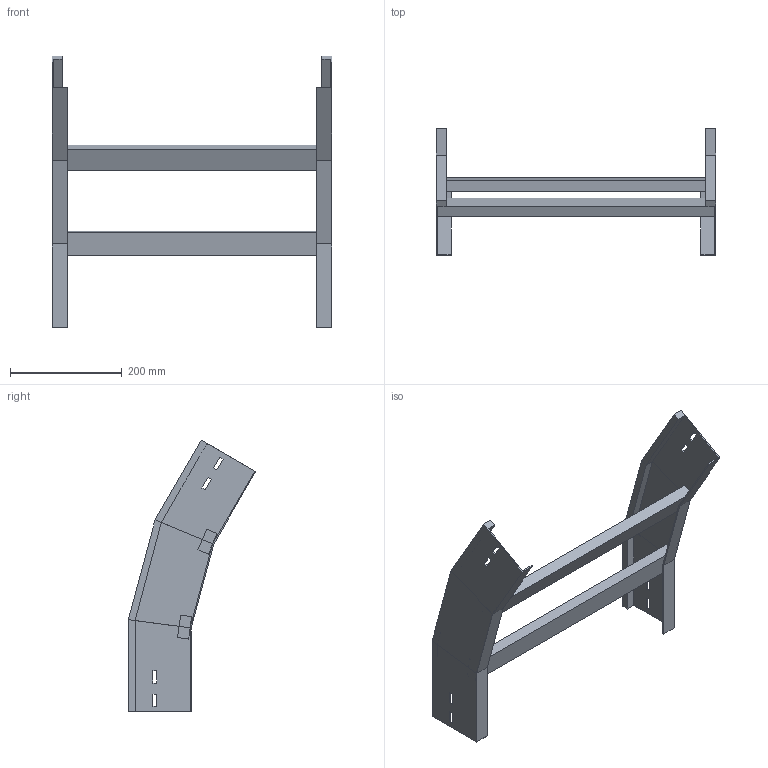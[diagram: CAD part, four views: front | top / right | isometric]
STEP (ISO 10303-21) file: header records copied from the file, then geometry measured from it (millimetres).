
FILE_DESCRIPTION (( 'STEP AP214' ), '1' );
FILE_NAME ('A2_35B3J500.step', '2025-02-21T14:48:01', ( '' ), ( '' ), 'SwSTEP 2.0', 'SolidWorks 2023', '' );
FILE_SCHEMA (( 'AUTOMOTIVE_DESIGN' ));
Length unit declared in the file: millimetre
Products named in the file (3): A2_35B3J500; TRAVERSINO_500; LONGH.DISCESA_30°_H112.5_R300
Assembly tree (5 placements, depth 2):
  A2_35B3J500
    LONGH.DISCESA_30°_H112.5_R300  x2
    TRAVERSINO_500  x3
Bounding box: 500 x 227.62 x 485.87 mm (x, y, z)
Volume: 1662704.7 mm3; surface area: 485458.8 mm2
Topology: 5 solids, 5 shells, 102 faces, 244 edges, 152 vertices
Faces by surface type: plane 102
Entity records: 1480 total; most frequent: CARTESIAN_POINT 244, ORIENTED_EDGE 232, DIRECTION 228, EDGE_CURVE 116, LINE 116, VECTOR 116, VERTEX_POINT 72, AXIS2_PLACEMENT_3D 56
